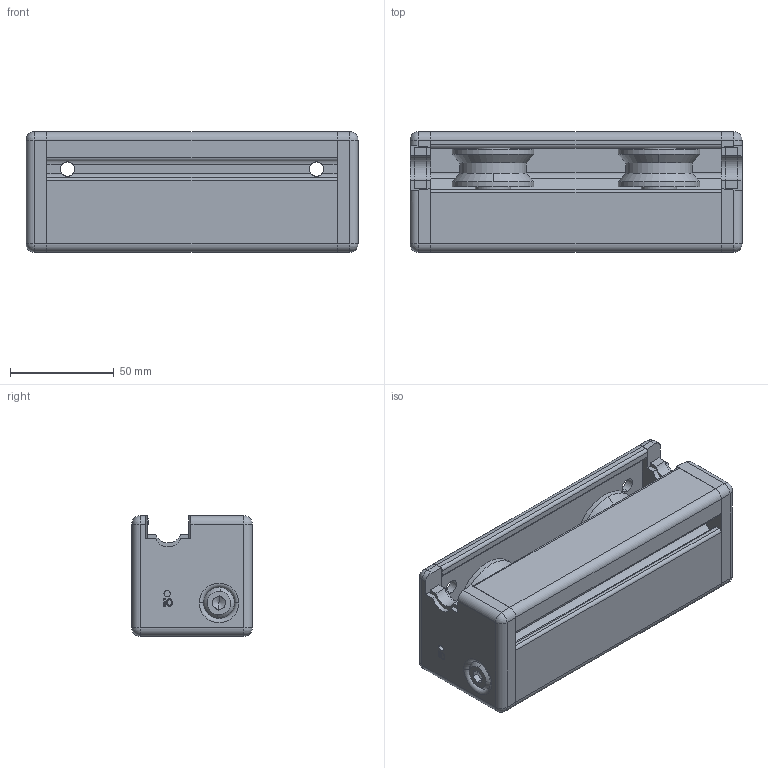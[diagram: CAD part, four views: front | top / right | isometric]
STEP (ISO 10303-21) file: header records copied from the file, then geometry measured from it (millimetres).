
FILE_DESCRIPTION (( 'STEP AP203' ), '1' );
FILE_NAME ('19189_DOP14EKPL.STEP', '2018-05-18T09:46:44', ( '' ), ( '' ), 'SwSTEP 2.0', 'SolidWorks 2017', '' );
FILE_SCHEMA (( 'CONFIG_CONTROL_DESIGN' ));
Length unit declared in the file: millimetre
Products named in the file (7): 10112-01-0000-00; 10061-01-0000-00; 10061-01-0000-01; 10061-01-0000-02; 10061-00-0000-00; 10061-01-0000-00_gespiegelt; 19189_DOP14EKPL
Assembly tree (8 placements, depth 3):
  19189_DOP14EKPL
    10112-01-0000-00
    10061-00-0000-00
      10061-01-0000-00
      10061-01-0000-01
      10061-01-0000-02
    10061-01-0000-00_gespiegelt
    10061-01-0000-01
    10061-01-0000-02
Bounding box: 160 x 58 x 58 mm (x, y, z)
Volume: 322456.3 mm3; surface area: 114413.3 mm2
Topology: 9 solids, 9 shells, 376 faces, 1008 edges, 650 vertices
Faces by surface type: plane 170, cylinder 151, bspline 23, cone 16, torus 8, sphere 8
Entity records: 13392 total; most frequent: CARTESIAN_POINT 3686, ORIENTED_EDGE 1884, DIRECTION 1830, EDGE_CURVE 942, AXIS2_PLACEMENT_3D 647, VERTEX_POINT 615, VECTOR 536, LINE 536
